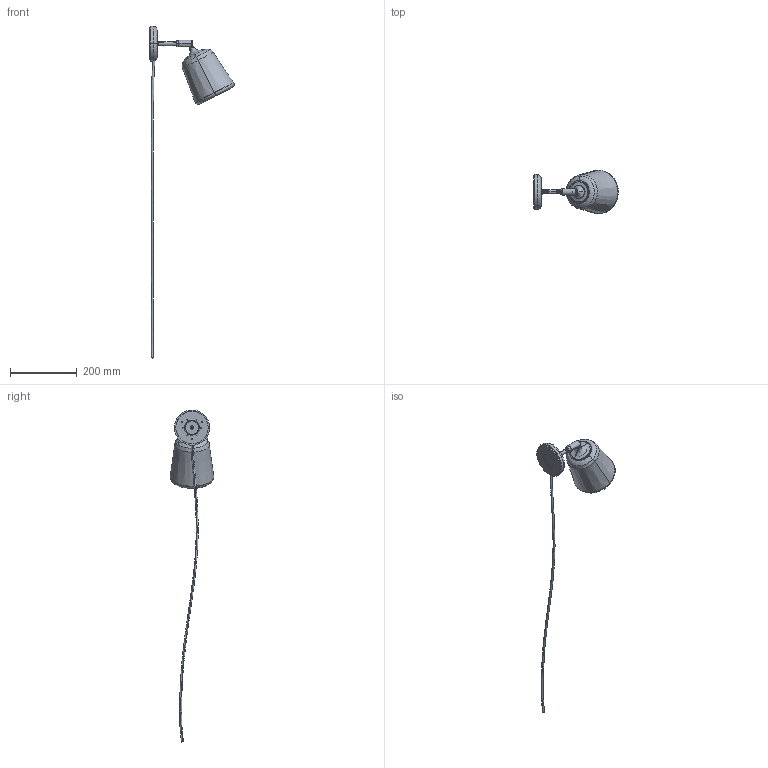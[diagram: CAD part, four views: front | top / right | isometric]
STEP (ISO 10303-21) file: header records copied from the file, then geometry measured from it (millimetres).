
FILE_DESCRIPTION(/* description */ (''),/* implementation_level */ '2;1');
FILE_NAME(/* name */ 'Material Wall Lamp',/* time_stamp */ '2019-04-16T12:43:35+02:00',/* author */ (''),/* organization */ (''),/* preprocessor_version */ 'ST-DEVELOPER v15',/* originating_system */ '',/* authorisation */ '');
FILE_SCHEMA (('AUTOMOTIVE_DESIGN'));
Length unit declared in the file: millimetre
Products named in the file (19): Document; PRT0005_A; PRT0008; PRT0007; TOP2; 7_A; BASE1; BREP_1-422; BREP_1-421; BREP_1-415; BREP_1-414; BREP_1-413; BREP_1-412; BREP_1-411; BREP_1-410; BREP_1-409; BREP_11_A; BREP_4_A; PRT0006_A
Assembly tree (20 placements, depth 2):
  Document
    PRT0005_A
    PRT0008
    PRT0007
    TOP2
    7_A
    BASE1
    BREP_1-422
    BREP_1-421
    BREP_1-415
    BREP_1-414
    BREP_1-413
    BREP_1-412
    BREP_1-411
    BREP_1-410
    BREP_1-409
    BREP_11_A
    BREP_4_A
    PRT0006_A  x3
Bounding box: 253.02 x 130.15 x 993.74 mm (x, y, z)
Volume: 885085 mm3; surface area: 281158.3 mm2
Topology: 22 solids, 22 shells, 761 faces, 2547 edges, 1829 vertices
Faces by surface type: bspline 597, plane 164
Entity records: 69450 total; most frequent: CARTESIAN_POINT 54809, ORIENTED_EDGE 4856, EDGE_CURVE 2428, B_SPLINE_CURVE_WITH_KNOTS 1886, VERTEX_POINT 1749, EDGE_LOOP 781, ADVANCED_FACE 721, FACE_OUTER_BOUND 721
